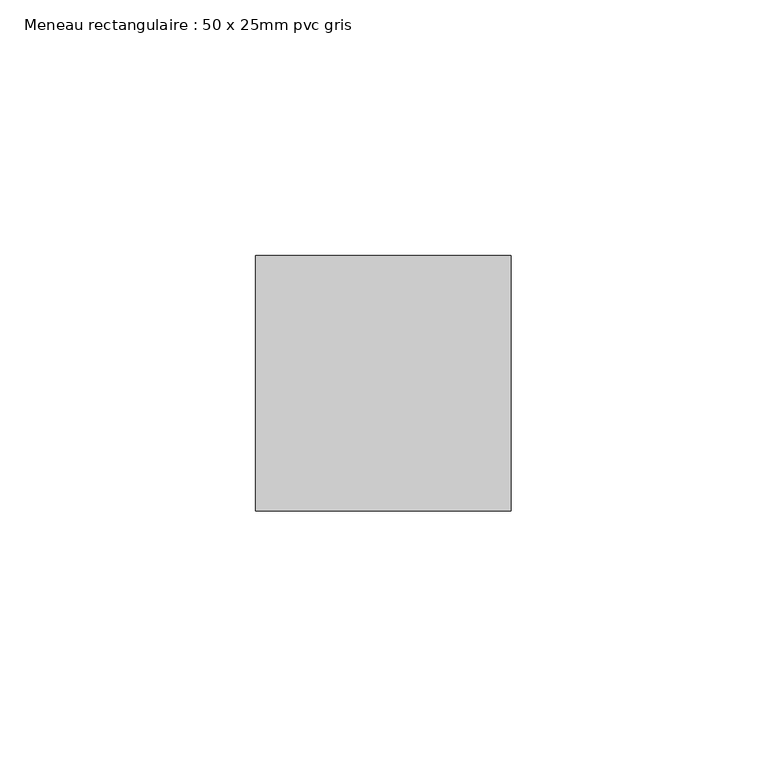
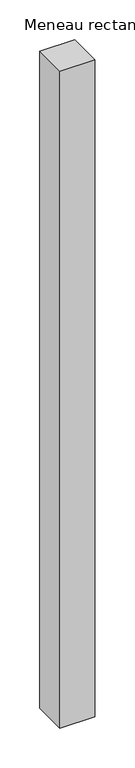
"""IFC4 building model written with IfcOpenShell, lengths in millimetres: member geometry, Meneau rectangulaire : 50 x 25mm pvc gris."""

from ifc_helpers import new_model, si_unit, frame, origin, place, context, project, spatial, polyline, outline, extrude, source, transform, mapped, element, save


def meneau_rectangulaire_50_x_25mm_pvc_gris_bca55937(model_context):
    return source(origin(), model_context, "Body", "SweptSolid", [
        extrude(outline(polyline([(0.0, 0.0), (0.0, -50.0), (-50.0, -50.0), (-50.0, 0.0), (0.0, 0.0)])), frame((0.0, 0.0, -1003.0), z_axis=(0.0, 0.0, 1.0), x_axis=(1.0, 0.0, 0.0)), (0.0, 0.0, 1.0), 1003.0),
    ])


if __name__ == "__main__":
    model = new_model("IFC4")
    model_context = context("Model", 3, world=origin())
    ifc_project = project(units=[si_unit("LENGTHUNIT", "METRE", prefix="MILLI")], contexts=[model_context])
    site = spatial("IfcSite", under=ifc_project)
    building = spatial("IfcBuilding", under=site)
    placement = place(None, origin())
    meneau_rectangulaire_50_x_25mm_pvc_gris_shape = meneau_rectangulaire_50_x_25mm_pvc_gris_bca55937(model_context)
    element("IfcMember", 1, ObjectType="Meneau rectangulaire : 50 x 25mm pvc gris", at=placement, inside=building, context=model_context, shape_type="MappedRepresentation", body=[
        mapped(meneau_rectangulaire_50_x_25mm_pvc_gris_shape, transform((0.0, 0.0, 0.0), x_axis=(1.0, 0.0, 0.0), y_axis=(0.0, 1.0, 0.0), z_axis=(0.0, 0.0, 1.0))),
    ])
    save(model, "model.ifc")
